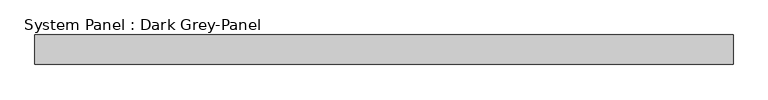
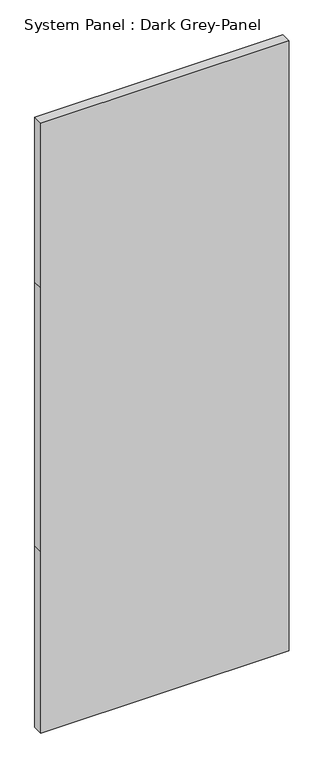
"""IFC4 building model written with IfcOpenShell, lengths in millimetres: plate geometry, System Panel : Dark Grey-Panel."""

from ifc_helpers import new_model, si_unit, frame, origin, place, context, project, spatial, polyline, outline, extrude, source, transform, mapped, element, save


def system_panel_dark_grey_panel_d75652f0(model_context):
    return source(origin(), model_context, "Body", "SweptSolid", [
        extrude(outline(polyline([(0.0, -712.5), (0.0, 712.5), (1100.0, 712.5), (2700.0, 712.5), (3700.0, 712.5), (3700.0, -712.5), (2700.0, -712.5), (1100.0, -712.5), (0.0, -712.5)])), frame((0.0, -10.5, 0.0), z_axis=(0.0, 1.0, 0.0), x_axis=(0.0, 0.0, 1.0)), (0.0, 0.0, 1.0), 60.0),
    ])


if __name__ == "__main__":
    model = new_model("IFC4")
    model_context = context("Model", 3, world=origin())
    ifc_project = project(units=[si_unit("LENGTHUNIT", "METRE", prefix="MILLI")], contexts=[model_context])
    site = spatial("IfcSite", under=ifc_project)
    building = spatial("IfcBuilding", under=site)
    placement = place(None, origin())
    system_panel_dark_grey_panel_shape = system_panel_dark_grey_panel_d75652f0(model_context)
    element("IfcPlate", 1, ObjectType="System Panel : Dark Grey-Panel", at=placement, inside=building, context=model_context, shape_type="MappedRepresentation", body=[
        mapped(system_panel_dark_grey_panel_shape, transform((0.0, 0.0, 0.0), x_axis=(1.0, 0.0, 0.0), y_axis=(0.0, 1.0, 0.0), z_axis=(0.0, 0.0, 1.0))),
    ])
    save(model, "model.ifc")
